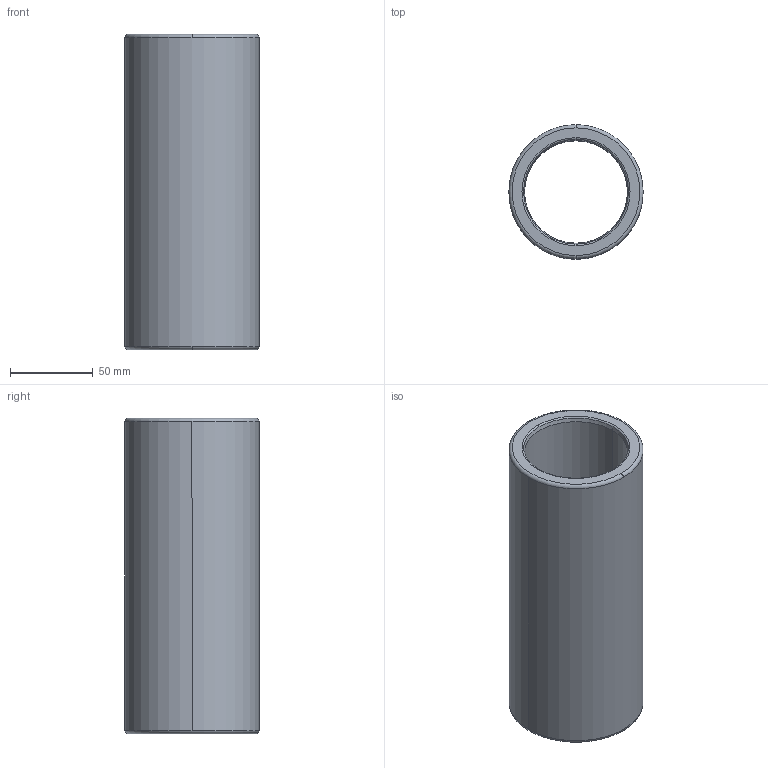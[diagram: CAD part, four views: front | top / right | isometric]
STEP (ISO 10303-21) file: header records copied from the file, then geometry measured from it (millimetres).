
FILE_DESCRIPTION((''),'2;1');
FILE_NAME('B30_050_190.stp','2009-01-12T10:58:16',(''),(''),'Mechanical Desktop 2009','Mechanical Desktop 2009',', , ');
FILE_SCHEMA(('CONFIG_CONTROL_DESIGN'));
Length unit declared in the file: millimetre
Products named in the file (2): Product; blmdl1
Assembly tree (1 placements, depth 2):
  Product
    blmdl1
Bounding box: 80.98 x 80.98 x 190 mm (x, y, z)
Volume: 404807 mm3; surface area: 88804.8 mm2
Topology: 1 solids, 1 shells, 18 faces, 48 edges, 32 vertices
Faces by surface type: torus 8, cylinder 4, cone 4, plane 2
Entity records: 705 total; most frequent: DIRECTION 128, CARTESIAN_POINT 100, ORIENTED_EDGE 96, AXIS2_PLACEMENT_3D 60, EDGE_CURVE 48, CIRCLE 40, VERTEX_POINT 32, EDGE_LOOP 20
